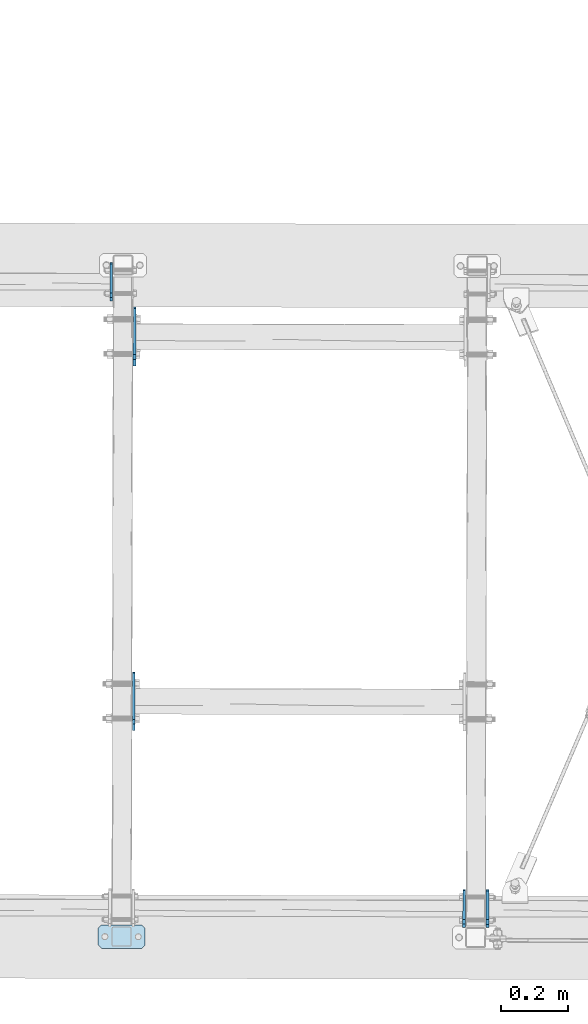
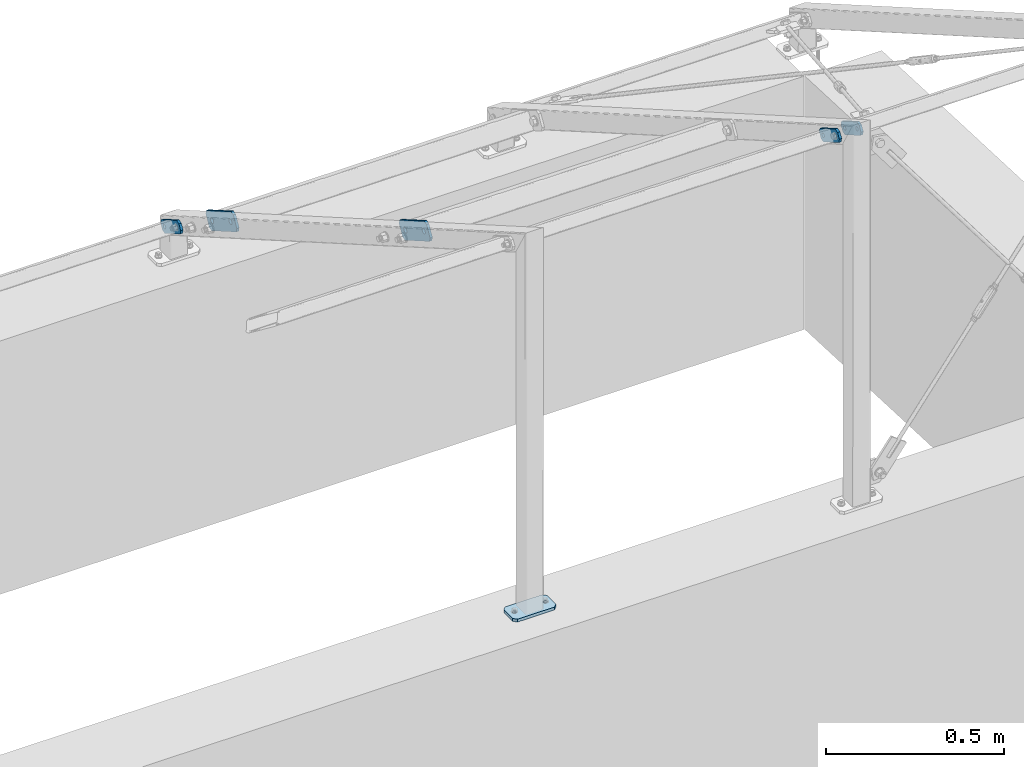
# One storey, part 42 of 288: 6 plates, 36 openings.
"""IFC2X3 building model written with IfcOpenShell, lengths in millimetres."""

from ifc_helpers import new_model, entity, si_unit, converted_unit, point, frame, frame_2d, origin, origin_with_axes, origin_2d_with_axis, place, context, project, spatial, polyline, circle_curve, line_curve, trimmed, segment, composite_curve, circle, outline, extrude, material, layer, layer_set, element, save


model = new_model("IFC2X3")

# Units and contexts
model_context = context("Model", 3, precision=1e-09, world=origin_with_axes())
ifc_project = project(units=[si_unit("LENGTHUNIT", "METRE", prefix="MILLI"), si_unit("AREAUNIT", "SQUARE_METRE"), si_unit("VOLUMEUNIT", "CUBIC_METRE"), converted_unit("PLANEANGLEUNIT", "DEGREE", entity("IfcPlaneAngleMeasure", 0.01745329), si_unit("PLANEANGLEUNIT", "RADIAN"), dimensions=[0, 0, 0, 0, 0, 0, 0])], contexts=[model_context])

# Site, building, storey
site_placement = place(None, origin_with_axes())
site = spatial("IfcSite", under=ifc_project, at=site_placement, Name="Remont ?wietlik?w nad MC w NCPP w Opolu", CompositionType="ELEMENT")
building_placement = place(site_placement, origin_with_axes())
building = spatial("IfcBuilding", under=site, at=building_placement, Name="Konstrukcja 1", CompositionType="ELEMENT")
storey_placement = place(building_placement, origin_with_axes())
storey = spatial("IfcBuildingStorey", under=building, at=storey_placement, Name="Default Storey", CompositionType="ELEMENT", Elevation=0.0)

# Plate, openings
ifc_material = material(Name="S235")
ifc_layer_1 = layer(ifc_material, 8.0)
ifc_layer_set_1 = layer_set([ifc_layer_1], Name="S235")
plate_1_placement = place(None, frame((9020.478387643, 1752.79180352, 151.024964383), z_axis=(0.999997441, -0.002262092, 1.05e-07), x_axis=(0.001959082, 0.866023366, -0.499999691)))
plate_1 = element("IfcPlate", 1, at=plate_1_placement, inside=storey, material=ifc_layer_set_1, Name="-", ObjectType="-", context=model_context, shape_type="SweptSolid", body=[
    extrude(outline(polyline([(0.0, 0.0), (120.0, 0.0), (120.0, 40.0), (0.0, 40.0), (0.0, 0.0)])), origin_with_axes(), (0.0, 0.0, 1.0), 8.0),
])
opening_1_placement = place(plate_1_placement, frame((0.0, 0.0, -0.01), z_axis=(0.0, 0.0, 1.0), x_axis=(1.0, 0.0, 0.0)))
element("IfcOpeningElement", 2, at=opening_1_placement, cuts=plate_1, ObjectType="Opening", context=model_context, shape_type="SweptSolid", body=[
    extrude(outline(composite_curve([segment(trimmed(line_curve((0.0, 40.0), (0.0, -1.0), 10.0), [point((0.0, 40.0))], [point((0.0, 30.0))], True, "CARTESIAN"), True, "CONTINUOUS"), segment(trimmed(circle_curve(frame_2d((10.0, 30.0), x_axis=(-1.0, 0.0)), 10.0), [point((0.0, 30.0))], [point((10.0, 40.0))], False, "CARTESIAN"), True, "CONTINUOUS"), segment(trimmed(line_curve((10.0, 40.0), (-1.0, 0.0), 10.0), [point((10.0, 40.0))], [point((0.0, 40.0))], True, "CARTESIAN"), True, "CONTINUOUS")], self_intersect=False)), origin(), (0.0, 0.0, 1.0), 8.02),
])
opening_2_placement = place(plate_1_placement, frame((0.0, 0.0, -0.01), z_axis=(0.0, 0.0, 1.0), x_axis=(1.0, 0.0, 0.0)))
element("IfcOpeningElement", 3, at=opening_2_placement, cuts=plate_1, ObjectType="Opening", context=model_context, shape_type="SweptSolid", body=[
    extrude(outline(composite_curve([segment(trimmed(line_curve((0.0, 0.0), (1.0, 0.0), 10.0), [point((0.0, 0.0))], [point((10.0, 0.0))], True, "CARTESIAN"), True, "CONTINUOUS"), segment(trimmed(circle_curve(frame_2d((10.0, 10.0), x_axis=(-1.0, 0.0)), 10.0), [point((10.0, 0.0))], [point((0.0, 10.0))], False, "CARTESIAN"), True, "CONTINUOUS"), segment(trimmed(line_curve((0.0, 10.0), (0.0, -1.0), 10.0), [point((0.0, 10.0))], [point((0.0, 0.0))], True, "CARTESIAN"), True, "CONTINUOUS")], self_intersect=False)), origin(), (0.0, 0.0, 1.0), 8.02),
])
opening_3_placement = place(plate_1_placement, frame((0.0, 0.0, -0.01), z_axis=(0.0, 0.0, 1.0), x_axis=(1.0, 0.0, 0.0)))
element("IfcOpeningElement", 4, at=opening_3_placement, cuts=plate_1, ObjectType="Opening", context=model_context, shape_type="SweptSolid", body=[
    extrude(outline(composite_curve([segment(trimmed(line_curve((120.0, 40.0), (-1.0, 0.0), 10.0), [point((120.0, 40.0))], [point((110.0, 40.0))], True, "CARTESIAN"), True, "CONTINUOUS"), segment(trimmed(circle_curve(frame_2d((110.0, 30.0), x_axis=(-1.0, 0.0)), 10.0), [point((110.0, 40.0))], [point((120.0, 30.0))], False, "CARTESIAN"), True, "CONTINUOUS"), segment(trimmed(line_curve((120.0, 30.0), (0.0, 1.0), 10.0), [point((120.0, 30.0))], [point((120.0, 40.0))], True, "CARTESIAN"), True, "CONTINUOUS")], self_intersect=False)), origin(), (0.0, 0.0, 1.0), 8.02),
])
opening_4_placement = place(plate_1_placement, frame((0.0, 0.0, -0.01), z_axis=(0.0, 0.0, 1.0), x_axis=(1.0, 0.0, 0.0)))
element("IfcOpeningElement", 5, at=opening_4_placement, cuts=plate_1, ObjectType="Opening", context=model_context, shape_type="SweptSolid", body=[
    extrude(outline(composite_curve([segment(trimmed(line_curve((120.0, 0.0), (0.0, 1.0), 10.0), [point((120.0, 0.0))], [point((120.0, 10.0))], True, "CARTESIAN"), True, "CONTINUOUS"), segment(trimmed(circle_curve(frame_2d((110.0, 10.0), x_axis=(-1.0, 0.0)), 10.0), [point((120.0, 10.0))], [point((110.0, 0.0))], False, "CARTESIAN"), True, "CONTINUOUS"), segment(trimmed(line_curve((110.0, 0.0), (1.0, 0.0), 10.0), [point((110.0, 0.0))], [point((120.0, 0.0))], True, "CARTESIAN"), True, "CONTINUOUS")], self_intersect=False)), origin(), (0.0, 0.0, 1.0), 8.02),
])
opening_5_placement = place(plate_1_placement, frame((27.001, 20.000292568, -0.5), z_axis=(0.0, 0.0, -1.0), x_axis=(-1.0, 0.0, 0.0)))
element("IfcOpeningElement", 6, at=opening_5_placement, cuts=plate_1, ObjectType="Opening", context=model_context, shape_type="SweptSolid", body=[
    extrude(circle(Radius=7.001, at=frame_2d((7.001, 0.0), x_axis=(1.0, 0.0))), origin(), (0.0, 0.0, -1.0), 9.0),
])
opening_6_placement = place(plate_1_placement, frame((107.001, 20.000292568, -0.5), z_axis=(0.0, 0.0, -1.0), x_axis=(-1.0, 0.0, 0.0)))
element("IfcOpeningElement", 7, at=opening_6_placement, cuts=plate_1, ObjectType="Opening", context=model_context, shape_type="SweptSolid", body=[
    extrude(circle(Radius=7.001, at=frame_2d((7.001, 0.0), x_axis=(1.0, 0.0))), origin(), (0.0, 0.0, -1.0), 9.0),
])

plate_2_placement = place(None, frame((10146.237611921, -123.211545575, 1232.662535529), z_axis=(0.999997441, -0.002262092, 1.05e-07), x_axis=(0.001959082, 0.866023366, -0.499999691)))
plate_2 = element("IfcPlate", 8, at=plate_2_placement, inside=storey, material=ifc_layer_set_1, Name="-", ObjectType="-", context=model_context, shape_type="SweptSolid", body=[
    extrude(outline(polyline([(0.0, 0.0), (120.0, 0.0), (120.0, 40.0), (0.0, 40.0), (0.0, 0.0)])), origin_with_axes(), (0.0, 0.0, 1.0), 8.0),
])
opening_7_placement = place(plate_2_placement, frame((0.0, 0.0, -0.01), z_axis=(0.0, 0.0, 1.0), x_axis=(1.0, 0.0, 0.0)))
element("IfcOpeningElement", 9, at=opening_7_placement, cuts=plate_2, ObjectType="Opening", context=model_context, shape_type="SweptSolid", body=[
    extrude(outline(composite_curve([segment(trimmed(line_curve((0.0, 40.0), (0.0, -1.0), 10.0), [point((0.0, 40.0))], [point((0.0, 30.0))], True, "CARTESIAN"), True, "CONTINUOUS"), segment(trimmed(circle_curve(frame_2d((10.0, 30.0), x_axis=(-1.0, 0.0)), 10.0), [point((0.0, 30.0))], [point((10.0, 40.0))], False, "CARTESIAN"), True, "CONTINUOUS"), segment(trimmed(line_curve((10.0, 40.0), (-1.0, 0.0), 10.0), [point((10.0, 40.0))], [point((0.0, 40.0))], True, "CARTESIAN"), True, "CONTINUOUS")], self_intersect=False)), origin(), (0.0, 0.0, 1.0), 8.02),
])
opening_8_placement = place(plate_2_placement, frame((0.0, 0.0, -0.01), z_axis=(0.0, 0.0, 1.0), x_axis=(1.0, 0.0, 0.0)))
element("IfcOpeningElement", 10, at=opening_8_placement, cuts=plate_2, ObjectType="Opening", context=model_context, shape_type="SweptSolid", body=[
    extrude(outline(composite_curve([segment(trimmed(line_curve((0.0, 0.0), (1.0, 0.0), 10.0), [point((0.0, 0.0))], [point((10.0, 0.0))], True, "CARTESIAN"), True, "CONTINUOUS"), segment(trimmed(circle_curve(frame_2d((10.0, 10.0), x_axis=(-1.0, 0.0)), 10.0), [point((10.0, 0.0))], [point((0.0, 10.0))], False, "CARTESIAN"), True, "CONTINUOUS"), segment(trimmed(line_curve((0.0, 10.0), (0.0, -1.0), 10.0), [point((0.0, 10.0))], [point((0.0, 0.0))], True, "CARTESIAN"), True, "CONTINUOUS")], self_intersect=False)), origin(), (0.0, 0.0, 1.0), 8.02),
])
opening_9_placement = place(plate_2_placement, frame((0.0, 0.0, -0.01), z_axis=(0.0, 0.0, 1.0), x_axis=(1.0, 0.0, 0.0)))
element("IfcOpeningElement", 11, at=opening_9_placement, cuts=plate_2, ObjectType="Opening", context=model_context, shape_type="SweptSolid", body=[
    extrude(outline(composite_curve([segment(trimmed(line_curve((120.0, 40.0), (-1.0, 0.0), 10.0), [point((120.0, 40.0))], [point((110.0, 40.0))], True, "CARTESIAN"), True, "CONTINUOUS"), segment(trimmed(circle_curve(frame_2d((110.0, 30.0), x_axis=(-1.0, 0.0)), 10.0), [point((110.0, 40.0))], [point((120.0, 30.0))], False, "CARTESIAN"), True, "CONTINUOUS"), segment(trimmed(line_curve((120.0, 30.0), (0.0, 1.0), 10.0), [point((120.0, 30.0))], [point((120.0, 40.0))], True, "CARTESIAN"), True, "CONTINUOUS")], self_intersect=False)), origin(), (0.0, 0.0, 1.0), 8.02),
])
opening_10_placement = place(plate_2_placement, frame((0.0, 0.0, -0.01), z_axis=(0.0, 0.0, 1.0), x_axis=(1.0, 0.0, 0.0)))
element("IfcOpeningElement", 12, at=opening_10_placement, cuts=plate_2, ObjectType="Opening", context=model_context, shape_type="SweptSolid", body=[
    extrude(outline(composite_curve([segment(trimmed(line_curve((120.0, 0.0), (0.0, 1.0), 10.0), [point((120.0, 0.0))], [point((120.0, 10.0))], True, "CARTESIAN"), True, "CONTINUOUS"), segment(trimmed(circle_curve(frame_2d((110.0, 10.0), x_axis=(-1.0, 0.0)), 10.0), [point((120.0, 10.0))], [point((110.0, 0.0))], False, "CARTESIAN"), True, "CONTINUOUS"), segment(trimmed(line_curve((110.0, 0.0), (1.0, 0.0), 10.0), [point((110.0, 0.0))], [point((120.0, 0.0))], True, "CARTESIAN"), True, "CONTINUOUS")], self_intersect=False)), origin(), (0.0, 0.0, 1.0), 8.02),
])
opening_11_placement = place(plate_2_placement, frame((60.0, 20.0, 8.5), z_axis=(0.0, 0.0, -1.0), x_axis=(-1.0, 0.0, 0.0)))
element("IfcOpeningElement", 13, at=opening_11_placement, cuts=plate_2, ObjectType="Opening", context=model_context, shape_type="SweptSolid", body=[
    extrude(circle(Radius=7.001, at=frame_2d((40.0, 0.0), x_axis=(1.0, 0.0))), origin(), (0.0, 0.0, 1.0), 9.0),
])
opening_12_placement = place(plate_2_placement, frame((60.0, 20.0, 8.5), z_axis=(0.0, 0.0, -1.0), x_axis=(-1.0, 0.0, 0.0)))
element("IfcOpeningElement", 14, at=opening_12_placement, cuts=plate_2, ObjectType="Opening", context=model_context, shape_type="SweptSolid", body=[
    extrude(circle(Radius=7.001, at=frame_2d((-40.0, 0.0), x_axis=(1.0, 0.0))), origin(), (0.0, 0.0, 1.0), 9.0),
])

plate_3_placement = place(None, frame((10076.237640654, -123.053345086, 1232.662274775), z_axis=(0.999997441, -0.002262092, 1.05e-07), x_axis=(0.001959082, 0.866023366, -0.499999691)))
plate_3 = element("IfcPlate", 15, at=plate_3_placement, inside=storey, material=ifc_layer_set_1, Name="-", ObjectType="-", context=model_context, shape_type="SweptSolid", body=[
    extrude(outline(polyline([(0.0, 0.0), (120.0, 0.0), (120.0, 40.0), (0.0, 40.0), (0.0, 0.0)])), origin_with_axes(), (0.0, 0.0, 1.0), 8.0),
])
opening_13_placement = place(plate_3_placement, frame((0.0, 0.0, -0.01), z_axis=(0.0, 0.0, 1.0), x_axis=(1.0, 0.0, 0.0)))
element("IfcOpeningElement", 16, at=opening_13_placement, cuts=plate_3, ObjectType="Opening", context=model_context, shape_type="SweptSolid", body=[
    extrude(outline(composite_curve([segment(trimmed(line_curve((0.0, 40.0), (0.0, -1.0), 10.0), [point((0.0, 40.0))], [point((0.0, 30.0))], True, "CARTESIAN"), True, "CONTINUOUS"), segment(trimmed(circle_curve(frame_2d((10.0, 30.0), x_axis=(-1.0, 0.0)), 10.0), [point((0.0, 30.0))], [point((10.0, 40.0))], False, "CARTESIAN"), True, "CONTINUOUS"), segment(trimmed(line_curve((10.0, 40.0), (-1.0, 0.0), 10.0), [point((10.0, 40.0))], [point((0.0, 40.0))], True, "CARTESIAN"), True, "CONTINUOUS")], self_intersect=False)), origin(), (0.0, 0.0, 1.0), 8.02),
])
opening_14_placement = place(plate_3_placement, frame((0.0, 0.0, -0.01), z_axis=(0.0, 0.0, 1.0), x_axis=(1.0, 0.0, 0.0)))
element("IfcOpeningElement", 17, at=opening_14_placement, cuts=plate_3, ObjectType="Opening", context=model_context, shape_type="SweptSolid", body=[
    extrude(outline(composite_curve([segment(trimmed(line_curve((0.0, 0.0), (1.0, 0.0), 10.0), [point((0.0, 0.0))], [point((10.0, 0.0))], True, "CARTESIAN"), True, "CONTINUOUS"), segment(trimmed(circle_curve(frame_2d((10.0, 10.0), x_axis=(-1.0, 0.0)), 10.0), [point((10.0, 0.0))], [point((0.0, 10.0))], False, "CARTESIAN"), True, "CONTINUOUS"), segment(trimmed(line_curve((0.0, 10.0), (0.0, -1.0), 10.0), [point((0.0, 10.0))], [point((0.0, 0.0))], True, "CARTESIAN"), True, "CONTINUOUS")], self_intersect=False)), origin(), (0.0, 0.0, 1.0), 8.02),
])
opening_15_placement = place(plate_3_placement, frame((0.0, 0.0, -0.01), z_axis=(0.0, 0.0, 1.0), x_axis=(1.0, 0.0, 0.0)))
element("IfcOpeningElement", 18, at=opening_15_placement, cuts=plate_3, ObjectType="Opening", context=model_context, shape_type="SweptSolid", body=[
    extrude(outline(composite_curve([segment(trimmed(line_curve((120.0, 40.0), (-1.0, 0.0), 10.0), [point((120.0, 40.0))], [point((110.0, 40.0))], True, "CARTESIAN"), True, "CONTINUOUS"), segment(trimmed(circle_curve(frame_2d((110.0, 30.0), x_axis=(-1.0, 0.0)), 10.0), [point((110.0, 40.0))], [point((120.0, 30.0))], False, "CARTESIAN"), True, "CONTINUOUS"), segment(trimmed(line_curve((120.0, 30.0), (0.0, 1.0), 10.0), [point((120.0, 30.0))], [point((120.0, 40.0))], True, "CARTESIAN"), True, "CONTINUOUS")], self_intersect=False)), origin(), (0.0, 0.0, 1.0), 8.02),
])
opening_16_placement = place(plate_3_placement, frame((0.0, 0.0, -0.01), z_axis=(0.0, 0.0, 1.0), x_axis=(1.0, 0.0, 0.0)))
element("IfcOpeningElement", 19, at=opening_16_placement, cuts=plate_3, ObjectType="Opening", context=model_context, shape_type="SweptSolid", body=[
    extrude(outline(composite_curve([segment(trimmed(line_curve((120.0, 0.0), (0.0, 1.0), 10.0), [point((120.0, 0.0))], [point((120.0, 10.0))], True, "CARTESIAN"), True, "CONTINUOUS"), segment(trimmed(circle_curve(frame_2d((110.0, 10.0), x_axis=(-1.0, 0.0)), 10.0), [point((120.0, 10.0))], [point((110.0, 0.0))], False, "CARTESIAN"), True, "CONTINUOUS"), segment(trimmed(line_curve((110.0, 0.0), (1.0, 0.0), 10.0), [point((110.0, 0.0))], [point((120.0, 0.0))], True, "CARTESIAN"), True, "CONTINUOUS")], self_intersect=False)), origin(), (0.0, 0.0, 1.0), 8.02),
])
opening_17_placement = place(plate_3_placement, frame((60.0, 20.000292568, 8.5), z_axis=(0.0, 0.0, -1.0), x_axis=(-1.0, 0.0, 0.0)))
element("IfcOpeningElement", 20, at=opening_17_placement, cuts=plate_3, ObjectType="Opening", context=model_context, shape_type="SweptSolid", body=[
    extrude(circle(Radius=7.001, at=frame_2d((40.0, 0.0), x_axis=(1.0, 0.0))), origin(), (0.0, 0.0, 1.0), 9.0),
])
opening_18_placement = place(plate_3_placement, frame((60.0, 20.000292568, 8.5), z_axis=(0.0, 0.0, -1.0), x_axis=(-1.0, 0.0, 0.0)))
element("IfcOpeningElement", 21, at=opening_18_placement, cuts=plate_3, ObjectType="Opening", context=model_context, shape_type="SweptSolid", body=[
    extrude(circle(Radius=7.001, at=frame_2d((-40.0, 0.0), x_axis=(1.0, 0.0))), origin(), (0.0, 0.0, 1.0), 9.0),
])

plate_4_placement = place(None, frame((9098.105051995, 1587.687716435, 303.981510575), z_axis=(-0.999997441, 0.002262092, -1.05e-07), x_axis=(0.001959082, 0.866023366, -0.499999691)))
plate_4 = element("IfcPlate", 22, at=plate_4_placement, inside=storey, material=ifc_layer_set_1, Name="-", ObjectType="-", context=model_context, shape_type="SweptSolid", body=[
    extrude(outline(polyline([(0.0, 0.0), (180.0, 0.0), (180.0, 60.0), (0.0, 60.0), (0.0, 0.0)])), origin_with_axes(), (0.0, 0.0, 1.0), 8.0),
])
opening_19_placement = place(plate_4_placement, frame((0.0, 0.0, -0.01), z_axis=(0.0, 0.0, 1.0), x_axis=(1.0, 0.0, 0.0)))
element("IfcOpeningElement", 23, at=opening_19_placement, cuts=plate_4, ObjectType="Opening", context=model_context, shape_type="SweptSolid", body=[
    extrude(outline(composite_curve([segment(trimmed(line_curve((0.0, 0.0), (1.0, 0.0), 10.0), [point((0.0, 0.0))], [point((10.0, 0.0))], True, "CARTESIAN"), True, "CONTINUOUS"), segment(trimmed(circle_curve(frame_2d((10.0, 10.0), x_axis=(-1.0, 0.0)), 10.0), [point((10.0, 0.0))], [point((0.0, 10.0))], False, "CARTESIAN"), True, "CONTINUOUS"), segment(trimmed(line_curve((0.0, 10.0), (0.0, -1.0), 10.0), [point((0.0, 10.0))], [point((0.0, 0.0))], True, "CARTESIAN"), True, "CONTINUOUS")], self_intersect=False)), origin(), (0.0, 0.0, 1.0), 8.02),
])
opening_20_placement = place(plate_4_placement, frame((0.0, 0.0, -0.01), z_axis=(0.0, 0.0, 1.0), x_axis=(1.0, 0.0, 0.0)))
element("IfcOpeningElement", 24, at=opening_20_placement, cuts=plate_4, ObjectType="Opening", context=model_context, shape_type="SweptSolid", body=[
    extrude(outline(composite_curve([segment(trimmed(line_curve((0.0, 60.0), (0.0, -1.0), 10.0), [point((0.0, 60.0))], [point((0.0, 50.0))], True, "CARTESIAN"), True, "CONTINUOUS"), segment(trimmed(circle_curve(frame_2d((10.0, 50.0), x_axis=(-1.0, 0.0)), 10.0), [point((0.0, 50.0))], [point((10.0, 60.0))], False, "CARTESIAN"), True, "CONTINUOUS"), segment(trimmed(line_curve((10.0, 60.0), (-1.0, 0.0), 10.0), [point((10.0, 60.0))], [point((0.0, 60.0))], True, "CARTESIAN"), True, "CONTINUOUS")], self_intersect=False)), origin(), (0.0, 0.0, 1.0), 8.02),
])
opening_21_placement = place(plate_4_placement, frame((0.0, 0.0, -0.01), z_axis=(0.0, 0.0, 1.0), x_axis=(1.0, 0.0, 0.0)))
element("IfcOpeningElement", 25, at=opening_21_placement, cuts=plate_4, ObjectType="Opening", context=model_context, shape_type="SweptSolid", body=[
    extrude(outline(composite_curve([segment(trimmed(line_curve((180.0, 0.0), (0.0, 1.0), 10.0), [point((180.0, 0.0))], [point((180.0, 10.0))], True, "CARTESIAN"), True, "CONTINUOUS"), segment(trimmed(circle_curve(frame_2d((170.0, 10.0), x_axis=(-1.0, 0.0)), 10.0), [point((180.0, 10.0))], [point((170.0, 0.0))], False, "CARTESIAN"), True, "CONTINUOUS"), segment(trimmed(line_curve((170.0, 0.0), (1.0, 0.0), 10.0), [point((170.0, 0.0))], [point((180.0, 0.0))], True, "CARTESIAN"), True, "CONTINUOUS")], self_intersect=False)), origin(), (0.0, 0.0, 1.0), 8.02),
])
opening_22_placement = place(plate_4_placement, frame((0.0, 0.0, -0.01), z_axis=(0.0, 0.0, 1.0), x_axis=(1.0, 0.0, 0.0)))
element("IfcOpeningElement", 26, at=opening_22_placement, cuts=plate_4, ObjectType="Opening", context=model_context, shape_type="SweptSolid", body=[
    extrude(outline(composite_curve([segment(trimmed(line_curve((180.0, 60.0), (-1.0, 0.0), 10.0), [point((180.0, 60.0))], [point((170.0, 60.0))], True, "CARTESIAN"), True, "CONTINUOUS"), segment(trimmed(circle_curve(frame_2d((170.0, 50.0), x_axis=(-1.0, 0.0)), 10.0), [point((170.0, 60.0))], [point((180.0, 50.0))], False, "CARTESIAN"), True, "CONTINUOUS"), segment(trimmed(line_curve((180.0, 50.0), (0.0, 1.0), 10.0), [point((180.0, 50.0))], [point((180.0, 60.0))], True, "CARTESIAN"), True, "CONTINUOUS")], self_intersect=False)), origin(), (0.0, 0.0, 1.0), 8.02),
])
opening_23_placement = place(plate_4_placement, frame((39.001, 30.0, 8.5), z_axis=(0.0, 0.0, 1.0), x_axis=(1.0, 0.0, 0.0)))
element("IfcOpeningElement", 27, at=opening_23_placement, cuts=plate_4, ObjectType="Opening", context=model_context, shape_type="SweptSolid", body=[
    extrude(circle(Radius=9.001, at=frame_2d((-9.001, 0.0), x_axis=(1.0, 0.0))), origin(), (0.0, 0.0, -1.0), 9.0),
])
opening_24_placement = place(plate_4_placement, frame((159.001, 30.0, 8.5), z_axis=(0.0, 0.0, 1.0), x_axis=(1.0, 0.0, 0.0)))
element("IfcOpeningElement", 28, at=opening_24_placement, cuts=plate_4, ObjectType="Opening", context=model_context, shape_type="SweptSolid", body=[
    extrude(circle(Radius=9.001, at=frame_2d((-9.001, 0.0), x_axis=(1.0, 0.0))), origin(), (0.0, 0.0, -1.0), 9.0),
])

ifc_layer_2 = layer(ifc_material, 10.0)
ifc_layer_set_2 = layer_set([ifc_layer_2], Name="S235")
plate_5_placement = place(None, frame((9125.263504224, -110.572869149, 10.000000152), z_axis=(0.0, 0.0, -1.0), x_axis=(-0.002261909, -0.999997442, 0.0)))
plate_5 = element("IfcPlate", 29, at=plate_5_placement, inside=storey, material=ifc_layer_set_2, Name="Baseplate", ObjectType="Baseplate", context=model_context, shape_type="SweptSolid", body=[
    extrude(outline(polyline([(0.0, 0.0), (70.0, 0.0), (70.0, 140.0), (0.0, 140.0), (0.0, 0.0)])), origin_with_axes(), (0.0, 0.0, 1.0), 10.0),
])
opening_25_placement = place(plate_5_placement, frame((0.0, 0.0, -0.01), z_axis=(0.0, 0.0, 1.0), x_axis=(1.0, 0.0, 0.0)))
element("IfcOpeningElement", 30, at=opening_25_placement, cuts=plate_5, ObjectType="Opening", context=model_context, shape_type="SweptSolid", body=[
    extrude(outline(composite_curve([segment(trimmed(line_curve((70.0, 0.0), (0.0, 1.0), 10.0), [point((70.0, 0.0))], [point((70.0, 10.0))], True, "CARTESIAN"), True, "CONTINUOUS"), segment(trimmed(circle_curve(frame_2d((60.0, 10.0), x_axis=(-1.0, 0.0)), 10.0), [point((70.0, 10.0))], [point((60.0, 0.0))], False, "CARTESIAN"), True, "CONTINUOUS"), segment(trimmed(line_curve((60.0, 0.0), (1.0, 0.0), 10.0), [point((60.0, 0.0))], [point((70.0, 0.0))], True, "CARTESIAN"), True, "CONTINUOUS")], self_intersect=False)), origin(), (0.0, 0.0, 1.0), 10.02),
])
opening_26_placement = place(plate_5_placement, frame((0.0, 0.0, -0.01), z_axis=(0.0, 0.0, 1.0), x_axis=(1.0, 0.0, 0.0)))
element("IfcOpeningElement", 31, at=opening_26_placement, cuts=plate_5, ObjectType="Opening", context=model_context, shape_type="SweptSolid", body=[
    extrude(outline(composite_curve([segment(trimmed(line_curve((0.0, 0.0), (1.0, 0.0), 10.0), [point((0.0, 0.0))], [point((10.0, 0.0))], True, "CARTESIAN"), True, "CONTINUOUS"), segment(trimmed(circle_curve(frame_2d((10.0, 10.0), x_axis=(-1.0, 0.0)), 10.0), [point((10.0, 0.0))], [point((0.0, 10.0))], False, "CARTESIAN"), True, "CONTINUOUS"), segment(trimmed(line_curve((0.0, 10.0), (0.0, -1.0), 10.0), [point((0.0, 10.0))], [point((0.0, 0.0))], True, "CARTESIAN"), True, "CONTINUOUS")], self_intersect=False)), origin(), (0.0, 0.0, 1.0), 10.02),
])
opening_27_placement = place(plate_5_placement, frame((0.0, 0.0, -0.01), z_axis=(0.0, 0.0, 1.0), x_axis=(1.0, 0.0, 0.0)))
element("IfcOpeningElement", 32, at=opening_27_placement, cuts=plate_5, ObjectType="Opening", context=model_context, shape_type="SweptSolid", body=[
    extrude(outline(composite_curve([segment(trimmed(line_curve((70.0, 140.0), (-1.0, 0.0), 10.0), [point((70.0, 140.0))], [point((60.0, 140.0))], True, "CARTESIAN"), True, "CONTINUOUS"), segment(trimmed(circle_curve(frame_2d((60.0, 130.0), x_axis=(-1.0, 0.0)), 10.0), [point((60.0, 140.0))], [point((70.0, 130.0))], False, "CARTESIAN"), True, "CONTINUOUS"), segment(trimmed(line_curve((70.0, 130.0), (0.0, 1.0), 10.0), [point((70.0, 130.0))], [point((70.0, 140.0))], True, "CARTESIAN"), True, "CONTINUOUS")], self_intersect=False)), origin(), (0.0, 0.0, 1.0), 10.02),
])
opening_28_placement = place(plate_5_placement, frame((0.0, 0.0, -0.01), z_axis=(0.0, 0.0, 1.0), x_axis=(1.0, 0.0, 0.0)))
element("IfcOpeningElement", 33, at=opening_28_placement, cuts=plate_5, ObjectType="Opening", context=model_context, shape_type="SweptSolid", body=[
    extrude(outline(composite_curve([segment(trimmed(line_curve((0.0, 140.0), (0.0, -1.0), 10.0), [point((0.0, 140.0))], [point((0.0, 130.0))], True, "CARTESIAN"), True, "CONTINUOUS"), segment(trimmed(circle_curve(frame_2d((10.0, 130.0), x_axis=(-1.0, 0.0)), 10.0), [point((0.0, 130.0))], [point((10.0, 140.0))], False, "CARTESIAN"), True, "CONTINUOUS"), segment(trimmed(line_curve((10.0, 140.0), (-1.0, 0.0), 10.0), [point((10.0, 140.0))], [point((0.0, 140.0))], True, "CARTESIAN"), True, "CONTINUOUS")], self_intersect=False)), origin(), (0.0, 0.0, 1.0), 10.02),
])
opening_29_placement = place(plate_5_placement, frame((35.0, 20.0, 10.5), z_axis=(0.0, 0.0, -1.0), x_axis=(1.0, 0.0, 0.0)))
element("IfcOpeningElement", 34, at=opening_29_placement, cuts=plate_5, ObjectType="Opening", context=model_context, shape_type="SweptSolid", body=[
    extrude(circle(Radius=6.001, at=origin_2d_with_axis()), origin(), (0.0, 0.0, 1.0), 11.0),
])
opening_30_placement = place(plate_5_placement, frame((35.0, 120.0, 10.5), z_axis=(0.0, 0.0, -1.0), x_axis=(1.0, 0.0, 0.0)))
element("IfcOpeningElement", 35, at=opening_30_placement, cuts=plate_5, ObjectType="Opening", context=model_context, shape_type="SweptSolid", body=[
    extrude(circle(Radius=6.001, at=origin_2d_with_axis()), origin(), (0.0, 0.0, 1.0), 11.0),
])

plate_6_placement = place(None, frame((9095.636608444, 496.498275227, 933.981121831), z_axis=(-0.999997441, 0.002262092, -1.05e-07), x_axis=(0.001959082, 0.866023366, -0.499999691)))
plate_6 = element("IfcPlate", 36, at=plate_6_placement, inside=storey, material=ifc_layer_set_1, Name="-", ObjectType="-", context=model_context, shape_type="SweptSolid", body=[
    extrude(outline(polyline([(0.0, 0.0), (180.0, 0.0), (180.0, 60.0), (0.0, 60.0), (0.0, 0.0)])), origin_with_axes(), (0.0, 0.0, 1.0), 8.0),
])
opening_31_placement = place(plate_6_placement, frame((39.001, 30.0, 8.5), z_axis=(0.0, 0.0, 1.0), x_axis=(1.0, 0.0, 0.0)))
element("IfcOpeningElement", 37, at=opening_31_placement, cuts=plate_6, ObjectType="Opening", context=model_context, shape_type="SweptSolid", body=[
    extrude(circle(Radius=9.001, at=frame_2d((-9.001, 0.0), x_axis=(1.0, 0.0))), origin(), (0.0, 0.0, -1.0), 9.0),
])
opening_32_placement = place(plate_6_placement, frame((159.001, 30.0, 8.5), z_axis=(0.0, 0.0, 1.0), x_axis=(1.0, 0.0, 0.0)))
element("IfcOpeningElement", 38, at=opening_32_placement, cuts=plate_6, ObjectType="Opening", context=model_context, shape_type="SweptSolid", body=[
    extrude(circle(Radius=9.001, at=frame_2d((-9.001, 0.0), x_axis=(1.0, 0.0))), origin(), (0.0, 0.0, -1.0), 9.0),
])
opening_33_placement = place(plate_6_placement, frame((0.0, 0.0, -0.01), z_axis=(0.0, 0.0, 1.0), x_axis=(1.0, 0.0, 0.0)))
element("IfcOpeningElement", 39, at=opening_33_placement, cuts=plate_6, ObjectType="Opening", context=model_context, shape_type="SweptSolid", body=[
    extrude(outline(composite_curve([segment(trimmed(line_curve((0.0, 0.0), (1.0, 0.0), 10.0), [point((0.0, 0.0))], [point((10.0, 0.0))], True, "CARTESIAN"), True, "CONTINUOUS"), segment(trimmed(circle_curve(frame_2d((10.0, 10.0), x_axis=(-1.0, 0.0)), 10.0), [point((10.0, 0.0))], [point((0.0, 10.0))], False, "CARTESIAN"), True, "CONTINUOUS"), segment(trimmed(line_curve((0.0, 10.0), (0.0, -1.0), 10.0), [point((0.0, 10.0))], [point((0.0, 0.0))], True, "CARTESIAN"), True, "CONTINUOUS")], self_intersect=False)), origin(), (0.0, 0.0, 1.0), 8.02),
])
opening_34_placement = place(plate_6_placement, frame((0.0, 0.0, -0.01), z_axis=(0.0, 0.0, 1.0), x_axis=(1.0, 0.0, 0.0)))
element("IfcOpeningElement", 40, at=opening_34_placement, cuts=plate_6, ObjectType="Opening", context=model_context, shape_type="SweptSolid", body=[
    extrude(outline(composite_curve([segment(trimmed(line_curve((0.0, 60.0), (0.0, -1.0), 10.0), [point((0.0, 60.0))], [point((0.0, 50.0))], True, "CARTESIAN"), True, "CONTINUOUS"), segment(trimmed(circle_curve(frame_2d((10.0, 50.0), x_axis=(-1.0, 0.0)), 10.0), [point((0.0, 50.0))], [point((10.0, 60.0))], False, "CARTESIAN"), True, "CONTINUOUS"), segment(trimmed(line_curve((10.0, 60.0), (-1.0, 0.0), 10.0), [point((10.0, 60.0))], [point((0.0, 60.0))], True, "CARTESIAN"), True, "CONTINUOUS")], self_intersect=False)), origin(), (0.0, 0.0, 1.0), 8.02),
])
opening_35_placement = place(plate_6_placement, frame((0.0, 0.0, -0.01), z_axis=(0.0, 0.0, 1.0), x_axis=(1.0, 0.0, 0.0)))
element("IfcOpeningElement", 41, at=opening_35_placement, cuts=plate_6, ObjectType="Opening", context=model_context, shape_type="SweptSolid", body=[
    extrude(outline(composite_curve([segment(trimmed(line_curve((180.0, 0.0), (0.0, 1.0), 10.0), [point((180.0, 0.0))], [point((180.0, 10.0))], True, "CARTESIAN"), True, "CONTINUOUS"), segment(trimmed(circle_curve(frame_2d((170.0, 10.0), x_axis=(-1.0, 0.0)), 10.0), [point((180.0, 10.0))], [point((170.0, 0.0))], False, "CARTESIAN"), True, "CONTINUOUS"), segment(trimmed(line_curve((170.0, 0.0), (1.0, 0.0), 10.0), [point((170.0, 0.0))], [point((180.0, 0.0))], True, "CARTESIAN"), True, "CONTINUOUS")], self_intersect=False)), origin(), (0.0, 0.0, 1.0), 8.02),
])
opening_36_placement = place(plate_6_placement, frame((0.0, 0.0, -0.01), z_axis=(0.0, 0.0, 1.0), x_axis=(1.0, 0.0, 0.0)))
element("IfcOpeningElement", 42, at=opening_36_placement, cuts=plate_6, ObjectType="Opening", context=model_context, shape_type="SweptSolid", body=[
    extrude(outline(composite_curve([segment(trimmed(line_curve((180.0, 60.0), (-1.0, 0.0), 10.0), [point((180.0, 60.0))], [point((170.0, 60.0))], True, "CARTESIAN"), True, "CONTINUOUS"), segment(trimmed(circle_curve(frame_2d((170.0, 50.0), x_axis=(-1.0, 0.0)), 10.0), [point((170.0, 60.0))], [point((180.0, 50.0))], False, "CARTESIAN"), True, "CONTINUOUS"), segment(trimmed(line_curve((180.0, 50.0), (0.0, 1.0), 10.0), [point((180.0, 50.0))], [point((180.0, 60.0))], True, "CARTESIAN"), True, "CONTINUOUS")], self_intersect=False)), origin(), (0.0, 0.0, 1.0), 8.02),
])

save(model, "model.ifc")
